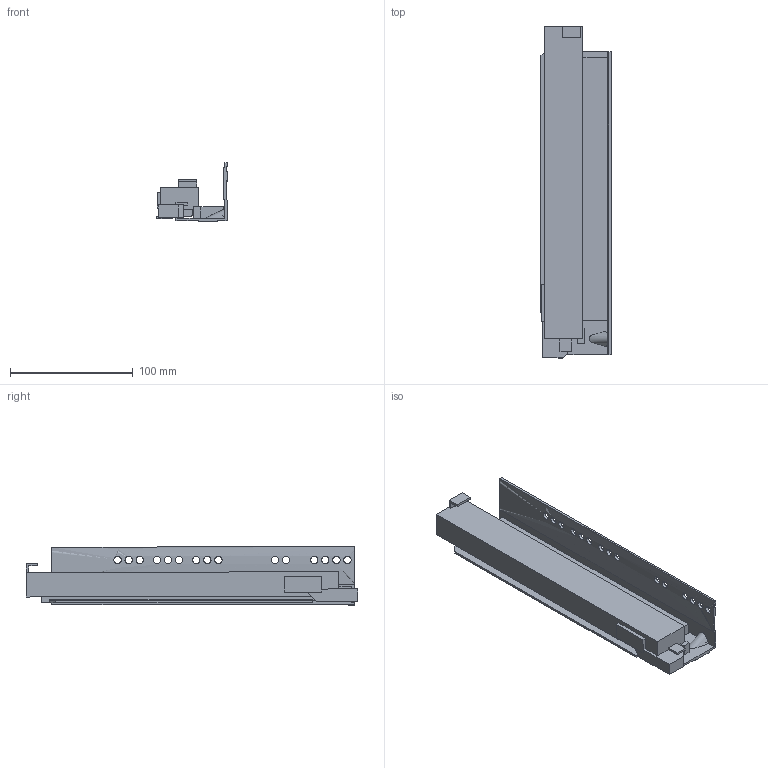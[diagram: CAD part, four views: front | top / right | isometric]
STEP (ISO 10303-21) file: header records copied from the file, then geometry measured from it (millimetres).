
FILE_DESCRIPTION (( 'STEP AP214' ), '1' );
FILE_NAME ('_IMOS_Dynapro_Softclose_D514_NL_270_RE.step', '2010-07-16T06:03:28', ( 'grass' ), ( '' ), 'SwSTEP 2.0', 'SolidWorks 2009', '' );
FILE_SCHEMA (( 'AUTOMOTIVE_DESIGN' ));
Length unit declared in the file: millimetre
Products named in the file (1): _IMOS_Dynapro_Softclose_D514_NL_270_RE
Bounding box: 57.08 x 270.07 x 47.86 mm (x, y, z)
Volume: 260895.1 mm3; surface area: 91813.3 mm2
Topology: 1 solids, 1 shells, 111 faces, 376 edges, 265 vertices
Faces by surface type: plane 75, cylinder 30, bspline 6
Entity records: 5004 total; most frequent: CARTESIAN_POINT 1578, ORIENTED_EDGE 748, DIRECTION 650, EDGE_CURVE 374, LINE 292, VECTOR 292, VERTEX_POINT 265, AXIS2_PLACEMENT_3D 179
